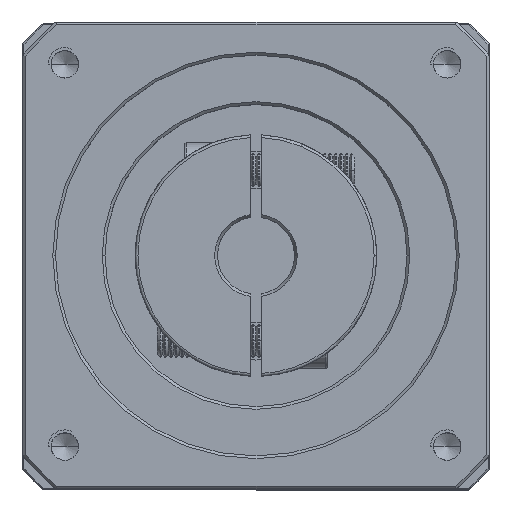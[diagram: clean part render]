
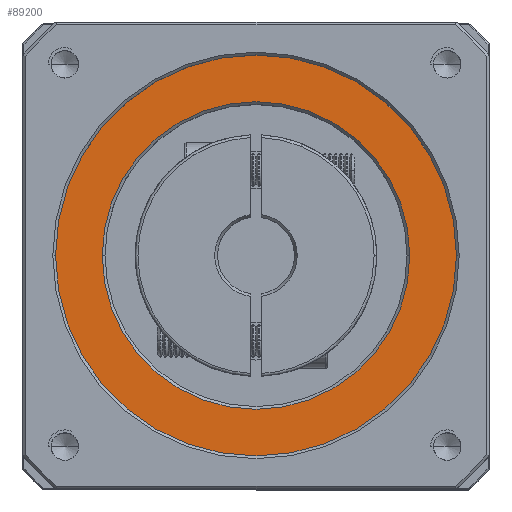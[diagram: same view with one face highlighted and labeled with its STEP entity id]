
A CAD part, top view. The second image highlights one B-rep face of the part: STEP entity #89200.
In plain terms, the highlighted planar face has unit normal (0, 0, 1).
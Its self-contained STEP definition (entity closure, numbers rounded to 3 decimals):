
#131 = CIRCLE ( 'NONE', #99745, 36.5 ) ;
#576 = CARTESIAN_POINT ( 'NONE',  ( -39.569, 50.545, 5.935 ) ) ;
#1099 = DIRECTION ( 'NONE',  ( 0., 0., 1. ) ) ;
#2057 = VERTEX_POINT ( 'NONE', #49070 ) ;
#12635 = AXIS2_PLACEMENT_3D ( 'NONE', #61553, #119651, #80394 ) ;
#14161 = FACE_BOUND ( 'NONE', #85835, .T. ) ;
#17211 = ORIENTED_EDGE ( 'NONE', *, *, #73955, .T. ) ;
#17259 = CARTESIAN_POINT ( 'NONE',  ( -39.569, 50.545, 5.935 ) ) ;
#19374 = DIRECTION ( 'NONE',  ( 0., 0., -1. ) ) ;
#19816 = CARTESIAN_POINT ( 'NONE',  ( -39.569, 50.545, 5.935 ) ) ;
#22004 = EDGE_CURVE ( 'NONE', #34112, #2057, #70048, .T. ) ;
#26630 = EDGE_LOOP ( 'NONE', ( #92105, #79513 ) ) ;
#28702 = CARTESIAN_POINT ( 'NONE',  ( -3.069, 50.545, 5.935 ) ) ;
#33913 = EDGE_CURVE ( 'NONE', #2057, #34112, #131, .T. ) ;
#34112 = VERTEX_POINT ( 'NONE', #28702 ) ;
#34434 = FACE_OUTER_BOUND ( 'NONE', #26630, .T. ) ;
#36325 = CIRCLE ( 'NONE', #69858, 28. ) ;
#40550 = AXIS2_PLACEMENT_3D ( 'NONE', #120055, #1099, #100387 ) ;
#47920 = ORIENTED_EDGE ( 'NONE', *, *, #78755, .T. ) ;
#49070 = CARTESIAN_POINT ( 'NONE',  ( -76.069, 50.545, 5.935 ) ) ;
#51497 = PLANE ( 'NONE',  #40550 ) ;
#61553 = CARTESIAN_POINT ( 'NONE',  ( -39.569, 50.545, 5.935 ) ) ;
#66325 = DIRECTION ( 'NONE',  ( 1., 0., 0. ) ) ;
#69858 = AXIS2_PLACEMENT_3D ( 'NONE', #19816, #19374, #80630 ) ;
#70048 = CIRCLE ( 'NONE', #12635, 36.5 ) ;
#70243 = DIRECTION ( 'NONE',  ( 1., 0., 0. ) ) ;
#73955 = EDGE_CURVE ( 'NONE', #99172, #81989, #36325, .T. ) ;
#78755 = EDGE_CURVE ( 'NONE', #81989, #99172, #97257, .T. ) ;
#79513 = ORIENTED_EDGE ( 'NONE', *, *, #33913, .T. ) ;
#80394 = DIRECTION ( 'NONE',  ( 1., 0., 0. ) ) ;
#80595 = AXIS2_PLACEMENT_3D ( 'NONE', #576, #109957, #70243 ) ;
#80630 = DIRECTION ( 'NONE',  ( 1., 0., 0. ) ) ;
#81989 = VERTEX_POINT ( 'NONE', #102496 ) ;
#85835 = EDGE_LOOP ( 'NONE', ( #17211, #47920 ) ) ;
#89200 = ADVANCED_FACE ( 'NONE', ( #34434, #14161 ), #51497, .T. ) ;
#92105 = ORIENTED_EDGE ( 'NONE', *, *, #22004, .T. ) ;
#97257 = CIRCLE ( 'NONE', #80595, 28. ) ;
#99172 = VERTEX_POINT ( 'NONE', #127276 ) ;
#99745 = AXIS2_PLACEMENT_3D ( 'NONE', #17259, #117372, #66325 ) ;
#100387 = DIRECTION ( 'NONE',  ( 1., 0., 0. ) ) ;
#102496 = CARTESIAN_POINT ( 'NONE',  ( -67.569, 50.545, 5.935 ) ) ;
#109957 = DIRECTION ( 'NONE',  ( 0., 0., -1. ) ) ;
#117372 = DIRECTION ( 'NONE',  ( 0., 0., 1. ) ) ;
#119651 = DIRECTION ( 'NONE',  ( 0., 0., 1. ) ) ;
#120055 = CARTESIAN_POINT ( 'NONE',  ( -39.569, 50.545, 5.935 ) ) ;
#127276 = CARTESIAN_POINT ( 'NONE',  ( -11.569, 50.545, 5.935 ) ) ;
